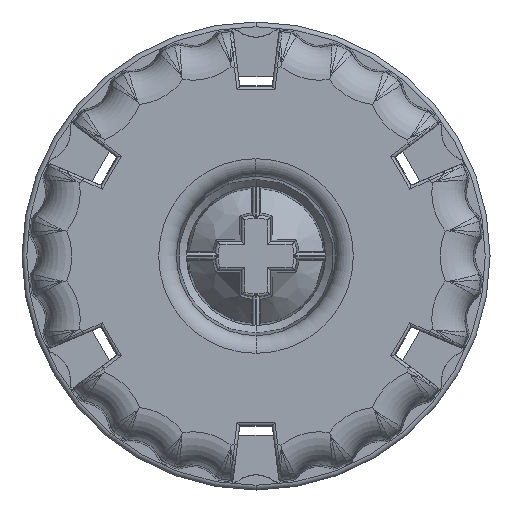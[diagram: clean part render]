
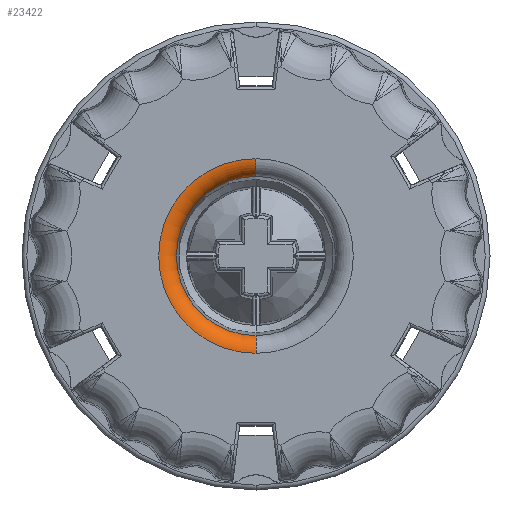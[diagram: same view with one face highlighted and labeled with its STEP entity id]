
A CAD part, front view. The second image highlights one B-rep face of the part: STEP entity #23422.
In plain terms, the highlighted toroidal (fillet/blend) face has major radius 16.431 mm and minor radius 3 mm.
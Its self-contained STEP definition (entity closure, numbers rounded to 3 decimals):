
#1=CARTESIAN_POINT('',(0.,69.,0.));
#2=DIRECTION('',(0.,-1.,0.));
#3=DIRECTION('',(0.,0.,-1.));
#4=AXIS2_PLACEMENT_3D('',#1,#2,#3);
#6=CARTESIAN_POINT('',(0.,66.052,0.));
#7=DIRECTION('',(0.,-1.,0.));
#8=DIRECTION('',(0.,0.,-1.));
#9=AXIS2_PLACEMENT_3D('',#6,#7,#8);
#11=CARTESIAN_POINT('',(0.,66.,-16.431));
#12=DIRECTION('',(1.,0.,0.));
#13=DIRECTION('',(0.,1.,0.));
#14=AXIS2_PLACEMENT_3D('',#11,#12,#13);
#26=CARTESIAN_POINT('',(0.,66.,16.431));
#27=DIRECTION('',(-1.,0.,0.));
#28=DIRECTION('',(0.,1.,0.));
#29=AXIS2_PLACEMENT_3D('',#26,#27,#28);
#22002=CARTESIAN_POINT('',(0.,69.,-16.431));
#22003=CARTESIAN_POINT('',(0.,69.,16.431));
#22004=VERTEX_POINT('',#22002);
#22005=VERTEX_POINT('',#22003);
#22006=CARTESIAN_POINT('',(0.,66.052,-13.431));
#22007=CARTESIAN_POINT('',(0.,66.052,13.431));
#22008=VERTEX_POINT('',#22006);
#22009=VERTEX_POINT('',#22007);
#23408=CARTESIAN_POINT('',(0.,66.,0.));
#23409=DIRECTION('',(0.,-1.,0.));
#23410=DIRECTION('',(-0.012,0.,-1.));
#23411=AXIS2_PLACEMENT_3D('',#23408,#23409,#23410);
#23412=TOROIDAL_SURFACE('',#23411,16.431,3.);
#23413=ORIENTED_EDGE('',*,*,#23401,.T.);
#23415=ORIENTED_EDGE('',*,*,#23414,.T.);
#23417=ORIENTED_EDGE('',*,*,#23416,.F.);
#23419=ORIENTED_EDGE('',*,*,#23418,.F.);
#23420=EDGE_LOOP('',(#23413,#23415,#23417,#23419));
#23421=FACE_OUTER_BOUND('',#23420,.F.);
#23422=ADVANCED_FACE('',(#23421),#23412,.T.);
#5=CIRCLE('',#4,16.431);
#10=CIRCLE('',#9,13.431);
#15=CIRCLE('',#14,3.);
#30=CIRCLE('',#29,3.);
#23401=EDGE_CURVE('',#22004,#22005,#5,.T.);
#23414=EDGE_CURVE('',#22005,#22009,#30,.T.);
#23416=EDGE_CURVE('',#22008,#22009,#10,.T.);
#23418=EDGE_CURVE('',#22004,#22008,#15,.T.);
